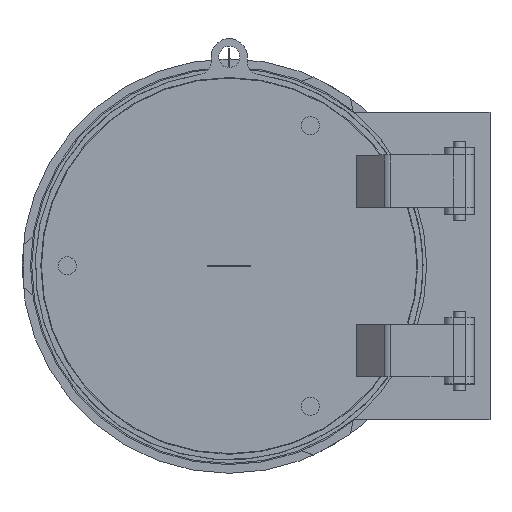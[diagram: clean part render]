
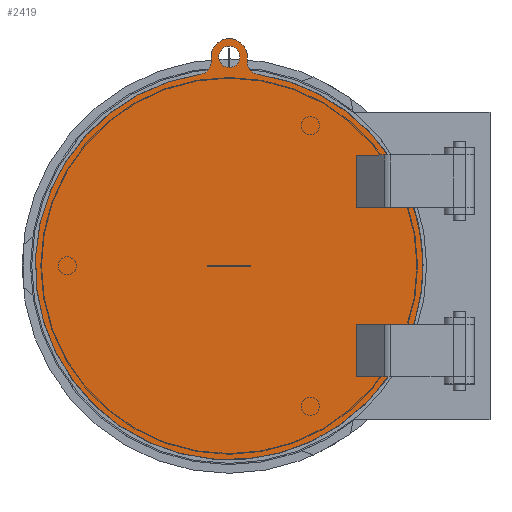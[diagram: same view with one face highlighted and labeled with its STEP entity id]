
A CAD part, top view. The second image highlights one B-rep face of the part: STEP entity #2419.
In plain terms, the highlighted planar face has unit normal (0, 0, 1).
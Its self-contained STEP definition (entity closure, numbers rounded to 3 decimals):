
#1531=CARTESIAN_POINT('',(0.,345.,20.));
#1532=DIRECTION('',(0.,0.,-1.));
#1533=DIRECTION('',(1.,0.,0.));
#1534=AXIS2_PLACEMENT_3D('',#1531,#1532,#1533);
#1539=CARTESIAN_POINT('',(0.,345.,20.));
#1540=DIRECTION('',(0.,0.,-1.));
#1541=DIRECTION('',(-1.,0.,0.));
#1542=AXIS2_PLACEMENT_3D('',#1539,#1540,#1541);
#1547=DIRECTION('',(-1.,0.,0.));
#1548=VECTOR('',#1547,94.944);
#1549=CARTESIAN_POINT('',(304.944,-97.,20.));
#1550=LINE('',#1549,#1548);
#1554=DIRECTION('',(0.,-1.,0.));
#1555=VECTOR('',#1554,86.);
#1556=CARTESIAN_POINT('',(210.,-97.,20.));
#1557=LINE('',#1556,#1555);
#1561=DIRECTION('',(-1.,0.,0.));
#1562=VECTOR('',#1561,52.509);
#1563=CARTESIAN_POINT('',(262.509,-183.,20.));
#1564=LINE('',#1563,#1562);
#1568=CARTESIAN_POINT('',(0.,0.,20.));
#1569=DIRECTION('',(0.,0.,1.));
#1570=DIRECTION('',(-0.147,0.989,0.));
#1571=AXIS2_PLACEMENT_3D('',#1568,#1569,#1570);
#1576=CARTESIAN_POINT('',(-50.,336.303,20.));
#1577=DIRECTION('',(0.,0.,-1.));
#1578=DIRECTION('',(1.,0.,0.));
#1579=AXIS2_PLACEMENT_3D('',#1576,#1577,#1578);
#1584=DIRECTION('',(0.,-1.,0.));
#1585=VECTOR('',#1584,8.697);
#1586=CARTESIAN_POINT('',(-30.,345.,20.));
#1587=LINE('',#1586,#1585);
#1591=CARTESIAN_POINT('',(0.,345.,20.));
#1592=DIRECTION('',(0.,0.,1.));
#1593=DIRECTION('',(1.,0.,0.));
#1594=AXIS2_PLACEMENT_3D('',#1591,#1592,#1593);
#1599=DIRECTION('',(0.,1.,0.));
#1600=VECTOR('',#1599,8.697);
#1601=CARTESIAN_POINT('',(30.,336.303,20.));
#1602=LINE('',#1601,#1600);
#1606=CARTESIAN_POINT('',(50.,336.303,20.));
#1607=DIRECTION('',(0.,0.,-1.));
#1608=DIRECTION('',(-0.147,-0.989,0.));
#1609=AXIS2_PLACEMENT_3D('',#1606,#1607,#1608);
#1614=CARTESIAN_POINT('',(0.,0.,20.));
#1615=DIRECTION('',(0.,0.,1.));
#1616=DIRECTION('',(0.82,0.572,0.));
#1617=AXIS2_PLACEMENT_3D('',#1614,#1615,#1616);
#1622=DIRECTION('',(-1.,0.,0.));
#1623=VECTOR('',#1622,52.509);
#1624=CARTESIAN_POINT('',(262.509,183.,20.));
#1625=LINE('',#1624,#1623);
#1629=DIRECTION('',(0.,1.,0.));
#1630=VECTOR('',#1629,86.);
#1631=CARTESIAN_POINT('',(210.,97.,20.));
#1632=LINE('',#1631,#1630);
#1636=DIRECTION('',(-1.,0.,0.));
#1637=VECTOR('',#1636,94.944);
#1638=CARTESIAN_POINT('',(304.944,97.,20.));
#1639=LINE('',#1638,#1637);
#1643=CARTESIAN_POINT('',(0.,0.,20.));
#1644=DIRECTION('',(0.,0.,1.));
#1645=DIRECTION('',(0.953,-0.303,0.));
#1646=AXIS2_PLACEMENT_3D('',#1643,#1644,#1645);
#1651=DIRECTION('',(-1.,0.,0.));
#1652=VECTOR('',#1651,70.);
#1653=CARTESIAN_POINT('',(35.,-0.5,20.));
#1654=LINE('',#1653,#1652);
#1658=DIRECTION('',(0.,1.,0.));
#1659=VECTOR('',#1658,1.);
#1660=CARTESIAN_POINT('',(35.,-0.5,20.));
#1661=LINE('',#1660,#1659);
#1665=DIRECTION('',(-1.,0.,0.));
#1666=VECTOR('',#1665,70.);
#1667=CARTESIAN_POINT('',(35.,0.5,20.));
#1668=LINE('',#1667,#1666);
#1672=DIRECTION('',(0.,1.,0.));
#1673=VECTOR('',#1672,1.);
#1674=CARTESIAN_POINT('',(-35.,-0.5,20.));
#1675=LINE('',#1674,#1673);
#2162=CARTESIAN_POINT('',(17.5,345.,20.));
#2163=CARTESIAN_POINT('',(-17.5,345.,20.));
#2164=VERTEX_POINT('',#2162);
#2165=VERTEX_POINT('',#2163);
#2166=CARTESIAN_POINT('',(-30.,345.,20.));
#2167=CARTESIAN_POINT('',(-30.,336.303,20.));
#2168=VERTEX_POINT('',#2166);
#2169=VERTEX_POINT('',#2167);
#2170=CARTESIAN_POINT('',(-47.059,316.521,20.));
#2171=VERTEX_POINT('',#2170);
#2172=CARTESIAN_POINT('',(47.059,316.521,20.));
#2173=CARTESIAN_POINT('',(30.,336.303,20.));
#2174=VERTEX_POINT('',#2172);
#2175=VERTEX_POINT('',#2173);
#2176=CARTESIAN_POINT('',(30.,345.,20.));
#2177=VERTEX_POINT('',#2176);
#2198=CARTESIAN_POINT('',(304.944,97.,20.));
#2199=VERTEX_POINT('',#2198);
#2200=CARTESIAN_POINT('',(262.509,183.,20.));
#2201=VERTEX_POINT('',#2200);
#2218=CARTESIAN_POINT('',(210.,97.,20.));
#2219=VERTEX_POINT('',#2218);
#2220=CARTESIAN_POINT('',(210.,183.,20.));
#2221=VERTEX_POINT('',#2220);
#2226=CARTESIAN_POINT('',(304.944,-97.,20.));
#2227=VERTEX_POINT('',#2226);
#2228=CARTESIAN_POINT('',(262.509,-183.,20.));
#2229=VERTEX_POINT('',#2228);
#2230=CARTESIAN_POINT('',(210.,-97.,20.));
#2231=VERTEX_POINT('',#2230);
#2232=CARTESIAN_POINT('',(210.,-183.,20.));
#2233=VERTEX_POINT('',#2232);
#2266=CARTESIAN_POINT('',(35.,-0.5,20.));
#2267=CARTESIAN_POINT('',(-35.,-0.5,20.));
#2268=VERTEX_POINT('',#2266);
#2269=VERTEX_POINT('',#2267);
#2270=CARTESIAN_POINT('',(35.,0.5,20.));
#2271=CARTESIAN_POINT('',(-35.,0.5,20.));
#2272=VERTEX_POINT('',#2270);
#2273=VERTEX_POINT('',#2271);
#2371=CARTESIAN_POINT('',(0.,0.,20.));
#2372=DIRECTION('',(0.,0.,1.));
#2373=DIRECTION('',(1.,0.,0.));
#2374=AXIS2_PLACEMENT_3D('',#2371,#2372,#2373);
#2375=PLANE('',#2374);
#2377=ORIENTED_EDGE('',*,*,#2376,.T.);
#2379=ORIENTED_EDGE('',*,*,#2378,.T.);
#2381=ORIENTED_EDGE('',*,*,#2380,.F.);
#2383=ORIENTED_EDGE('',*,*,#2382,.F.);
#2385=ORIENTED_EDGE('',*,*,#2384,.F.);
#2387=ORIENTED_EDGE('',*,*,#2386,.F.);
#2389=ORIENTED_EDGE('',*,*,#2388,.F.);
#2391=ORIENTED_EDGE('',*,*,#2390,.F.);
#2393=ORIENTED_EDGE('',*,*,#2392,.F.);
#2395=ORIENTED_EDGE('',*,*,#2394,.F.);
#2396=ORIENTED_EDGE('',*,*,#2362,.T.);
#2397=ORIENTED_EDGE('',*,*,#2283,.F.);
#2398=ORIENTED_EDGE('',*,*,#2316,.F.);
#2400=ORIENTED_EDGE('',*,*,#2399,.F.);
#2401=EDGE_LOOP('',(#2377,#2379,#2381,#2383,#2385,#2387,#2389,#2391,#2393,#2395,
#2396,#2397,#2398,#2400));
#2402=FACE_OUTER_BOUND('',#2401,.F.);
#2404=ORIENTED_EDGE('',*,*,#2403,.F.);
#2406=ORIENTED_EDGE('',*,*,#2405,.F.);
#2407=EDGE_LOOP('',(#2404,#2406));
#2408=FACE_BOUND('',#2407,.F.);
#2410=ORIENTED_EDGE('',*,*,#2409,.F.);
#2412=ORIENTED_EDGE('',*,*,#2411,.T.);
#2414=ORIENTED_EDGE('',*,*,#2413,.T.);
#2416=ORIENTED_EDGE('',*,*,#2415,.F.);
#2417=EDGE_LOOP('',(#2410,#2412,#2414,#2416));
#2418=FACE_BOUND('',#2417,.F.);
#1535=CIRCLE('',#1534,17.5);
#1543=CIRCLE('',#1542,17.5);
#1572=CIRCLE('',#1571,320.);
#1580=CIRCLE('',#1579,20.);
#1595=CIRCLE('',#1594,30.);
#1610=CIRCLE('',#1609,20.);
#1618=CIRCLE('',#1617,320.);
#1647=CIRCLE('',#1646,320.);
#2283=EDGE_CURVE('',#2219,#2221,#1632,.T.);
#2316=EDGE_CURVE('',#2199,#2219,#1639,.T.);
#2362=EDGE_CURVE('',#2201,#2221,#1625,.T.);
#2376=EDGE_CURVE('',#2227,#2231,#1550,.T.);
#2378=EDGE_CURVE('',#2231,#2233,#1557,.T.);
#2380=EDGE_CURVE('',#2229,#2233,#1564,.T.);
#2382=EDGE_CURVE('',#2171,#2229,#1572,.T.);
#2384=EDGE_CURVE('',#2169,#2171,#1580,.T.);
#2386=EDGE_CURVE('',#2168,#2169,#1587,.T.);
#2388=EDGE_CURVE('',#2177,#2168,#1595,.T.);
#2390=EDGE_CURVE('',#2175,#2177,#1602,.T.);
#2392=EDGE_CURVE('',#2174,#2175,#1610,.T.);
#2394=EDGE_CURVE('',#2201,#2174,#1618,.T.);
#2399=EDGE_CURVE('',#2227,#2199,#1647,.T.);
#2403=EDGE_CURVE('',#2164,#2165,#1535,.T.);
#2405=EDGE_CURVE('',#2165,#2164,#1543,.T.);
#2409=EDGE_CURVE('',#2268,#2269,#1654,.T.);
#2411=EDGE_CURVE('',#2268,#2272,#1661,.T.);
#2413=EDGE_CURVE('',#2272,#2273,#1668,.T.);
#2415=EDGE_CURVE('',#2269,#2273,#1675,.T.);
#2419=ADVANCED_FACE('',(#2402,#2408,#2418),#2375,.T.);
